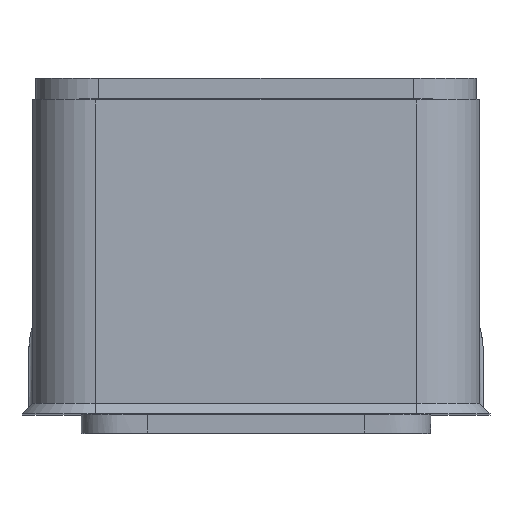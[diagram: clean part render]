
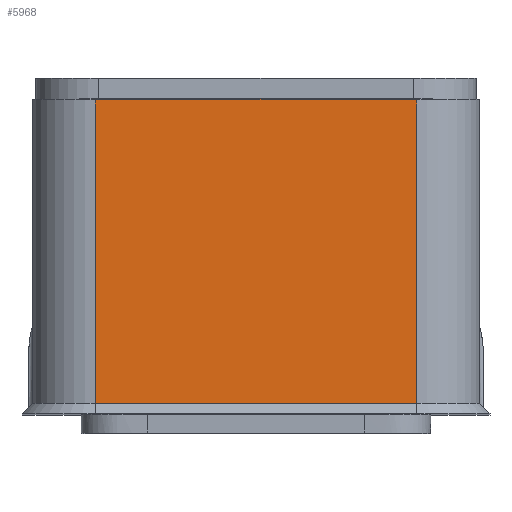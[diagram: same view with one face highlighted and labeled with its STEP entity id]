
A CAD part, top view. The second image highlights one B-rep face of the part: STEP entity #5968.
In plain terms, the highlighted planar face has unit normal (0, 0, 1).
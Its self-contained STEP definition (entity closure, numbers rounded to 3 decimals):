
#292=PLANE('',#8417);
#743=LINE('',#11361,#1286);
#783=LINE('',#11901,#1326);
#784=LINE('',#11903,#1327);
#785=LINE('',#11905,#1328);
#1286=VECTOR('',#9116,1000.);
#1326=VECTOR('',#9276,1000.);
#1327=VECTOR('',#9277,1000.);
#1328=VECTOR('',#9278,1000.);
#2139=ORIENTED_EDGE('',*,*,#3775,.T.);
#2140=ORIENTED_EDGE('',*,*,#3681,.F.);
#2141=ORIENTED_EDGE('',*,*,#3776,.F.);
#2142=ORIENTED_EDGE('',*,*,#3777,.T.);
#3681=EDGE_CURVE('',#4563,#4564,#743,.T.);
#3775=EDGE_CURVE('',#4618,#4564,#783,.T.);
#3776=EDGE_CURVE('',#4619,#4563,#784,.T.);
#3777=EDGE_CURVE('',#4619,#4618,#785,.T.);
#4563=VERTEX_POINT('',#11360);
#4564=VERTEX_POINT('',#11362);
#4618=VERTEX_POINT('',#11902);
#4619=VERTEX_POINT('',#11904);
#5172=EDGE_LOOP('',(#2139,#2140,#2141,#2142));
#5567=FACE_BOUND('',#5172,.T.);
#5968=ADVANCED_FACE('',(#5567),#292,.T.);
#8417=AXIS2_PLACEMENT_3D('',#11900,#9274,#9275);
#9116=DIRECTION('',(-1.,0.,0.));
#9274=DIRECTION('',(0.,0.,1.));
#9275=DIRECTION('',(1.,0.,0.));
#9276=DIRECTION('',(0.,-1.,0.));
#9277=DIRECTION('',(0.,-1.,0.));
#9278=DIRECTION('',(-1.,0.,0.));
#11360=CARTESIAN_POINT('',(7.65,0.5,22.9));
#11361=CARTESIAN_POINT('',(0.,0.5,22.9));
#11362=CARTESIAN_POINT('',(-7.65,0.5,22.9));
#11900=CARTESIAN_POINT('',(7.65,15.,22.9));
#11901=CARTESIAN_POINT('',(-7.65,15.,22.9));
#11902=CARTESIAN_POINT('',(-7.65,15.,22.9));
#11903=CARTESIAN_POINT('',(7.65,15.,22.9));
#11904=CARTESIAN_POINT('',(7.65,15.,22.9));
#11905=CARTESIAN_POINT('',(7.65,15.,22.9));
